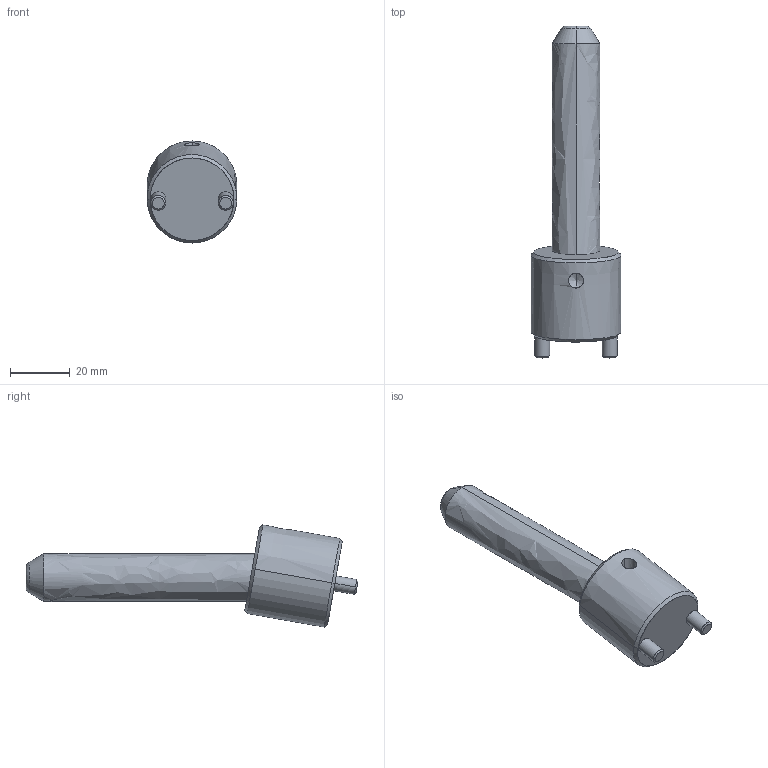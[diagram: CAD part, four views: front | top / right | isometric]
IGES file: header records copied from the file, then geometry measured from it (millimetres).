
Start section: START RECORD GO HERE.
Global section: file name: CI1016075.igs; native system: DASSAULT SYSTEMES CATIA V5 R20 - www.3ds.com; preprocessor: CATIA Version 5 Release 20 ; author: r.borello; organization: CFTORINO; date: 20190621.155246; units: millimetre
Bounding box: 30 x 110.83 x 34.06 mm (x, y, z)
Surface area: 10718.9 mm2 (no closed solid volume)
Topology: 0 solids, 0 shells, 39 faces, 162 edges, 160 vertices
Faces by surface type: revolution 32, plane 7
